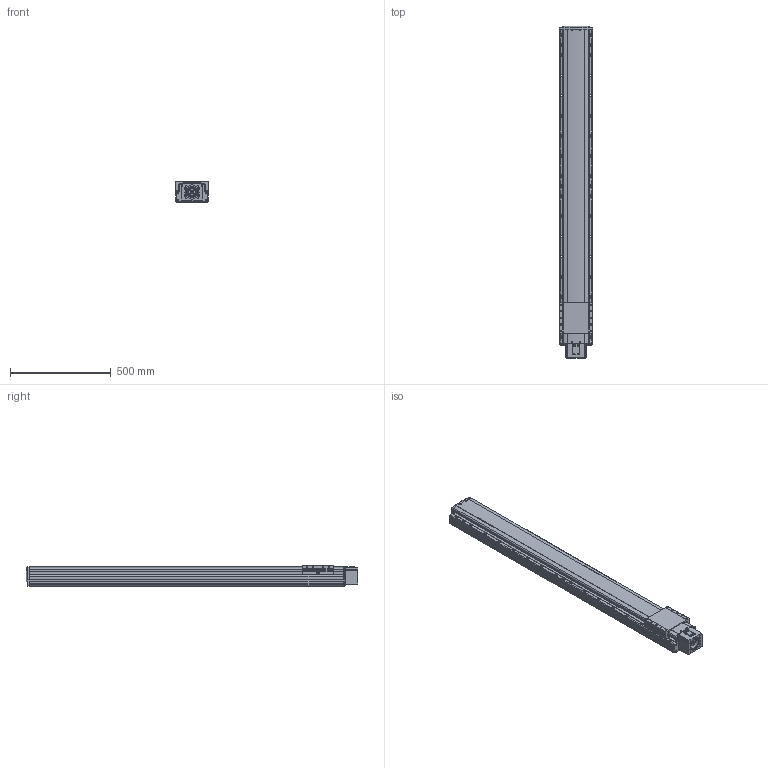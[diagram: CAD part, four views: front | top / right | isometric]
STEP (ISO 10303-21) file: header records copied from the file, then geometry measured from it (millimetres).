
FILE_DESCRIPTION(('STEP AP214'),'1');
FILE_NAME('Z:/Web/3D/PSA165/STP/PSA165-1300 (3D)/PSA165ㅁㅁ-1300S.stp','2014-06-24T10:35:59',(' '),(' '),'Spatial InterOp 3D',' ',' ');
FILE_SCHEMA(('automotive_design'));
Length unit declared in the file: millimetre
Products named in the file (67): 스크루 : Round - M4.0 x 12.0; RRCV-PA160; BASE; 스크루 : Round - M4.0 x 10.0; RN15; Screw 20; SLIDE; FRCV; 스크루 : Socket - M6.0 x 25.0; MTHZ-SAN150-80A; SSFX-SAN65; CPLCV-SAN65; 스크루 : Round - M3.0 x 6.0; SDWA47C(2); SDWA47C(3-1); SDWA47C(3); SDWA47C(1); SDWA47C(4); SDWA47C(5)
Bounding box: 165 x 1649.8 x 104 mm (x, y, z)
Volume: 22105700.7 mm3; surface area: 1388568.6 mm2
Topology: 67 solids, 67 shells, 3144 faces, 8403 edges, 5389 vertices
Faces by surface type: plane 1412, cylinder 1238, cone 385, sphere 50, bspline 35, torus 24
Entity records: 129339 total; most frequent: CARTESIAN_POINT 22925, DIRECTION 17435, ORIENTED_EDGE 16446, EDGE_CURVE 8223, AXIS2_PLACEMENT_3D 6349, VERTEX_POINT 5389, LINE 4737, VECTOR 4737
